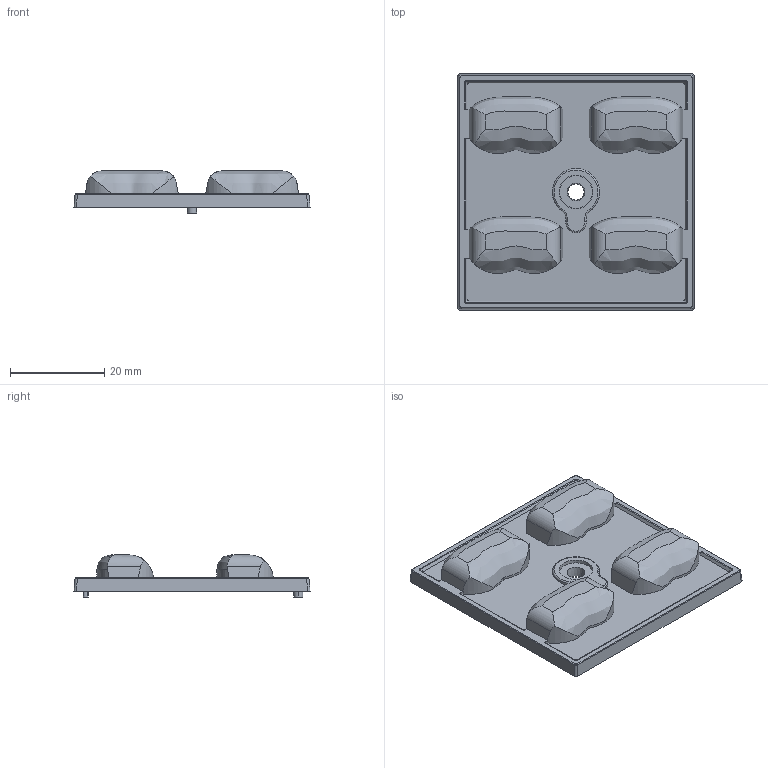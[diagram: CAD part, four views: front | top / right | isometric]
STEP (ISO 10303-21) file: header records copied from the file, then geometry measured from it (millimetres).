
FILE_DESCRIPTION(('Creo Elements/Direct Modeling STEP Export'),'2;1');
FILE_NAME('95503.stp','2022-05-16T12:53:06',(''),(''),'Creo Elements/Direct Modeling STEP processor for AP214 (Solid Model)','Creo Elements/Direct Modeling 20.1B 02-Apr-2019 (C) Parametric Technology GmbH','');
FILE_SCHEMA(('AUTOMOTIVE_DESIGN { 1 0 10303 214 1 1 1 1 }'));
Length unit declared in the file: millimetre
Products named in the file (2): 95503
Assembly tree (1 placements, depth 2):
  95503
    95503
Bounding box: 50 x 50 x 8.9 mm (x, y, z)
Volume: 8812.8 mm3; surface area: 6683.7 mm2
Topology: 1 solids, 1 shells, 306 faces, 833 edges, 554 vertices
Faces by surface type: plane 167, cylinder 87, extrusion 16, bspline 16, cone 8, revolution 8, torus 4
Entity records: 30235 total; most frequent: CARTESIAN_POINT 22154, ORIENTED_EDGE 1650, DIRECTION 1271, EDGE_CURVE 825, VERTEX_POINT 554, VECTOR 505, LINE 489, AXIS2_PLACEMENT_3D 379
